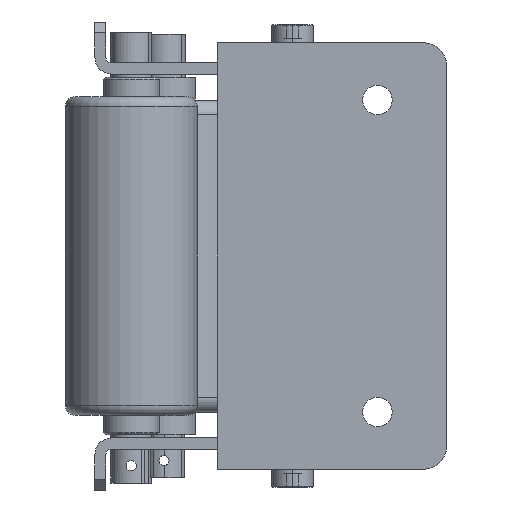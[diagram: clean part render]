
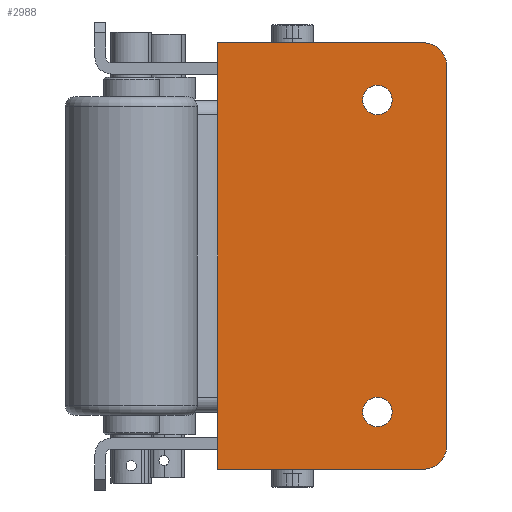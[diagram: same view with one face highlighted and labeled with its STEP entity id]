
A CAD part, left-side view. The second image highlights one B-rep face of the part: STEP entity #2988.
In plain terms, the highlighted planar face has unit normal (-1, 0, 0).
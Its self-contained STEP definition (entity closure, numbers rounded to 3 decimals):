
#200 = EDGE_CURVE ( 'NONE', #3284, #6445, #8306, .T. ) ;
#236 = EDGE_CURVE ( 'NONE', #10852, #4507, #460, .T. ) ;
#438 = VERTEX_POINT ( 'NONE', #5450 ) ;
#441 = VERTEX_POINT ( 'NONE', #6330 ) ;
#460 = CIRCLE ( 'NONE', #2542, 4.25 ) ;
#482 = CARTESIAN_POINT ( 'NONE',  ( -6., -13., -40.75 ) ) ;
#764 = VECTOR ( 'NONE', #10440, 1000. ) ;
#900 = EDGE_CURVE ( 'NONE', #6445, #438, #3285, .T. ) ;
#942 = EDGE_CURVE ( 'NONE', #438, #7979, #5584, .T. ) ;
#963 = DIRECTION ( 'NONE',  ( 0., 0., -1. ) ) ;
#1333 = CARTESIAN_POINT ( 'NONE',  ( -6., -33., 61.5 ) ) ;
#1495 = CARTESIAN_POINT ( 'NONE',  ( -6., 33., 61.5 ) ) ;
#1719 = DIRECTION ( 'NONE',  ( 0., 1., 0. ) ) ;
#1881 = CIRCLE ( 'NONE', #6604, 6.8 ) ;
#1952 = CARTESIAN_POINT ( 'NONE',  ( -6., 33., 61.5 ) ) ;
#2052 = AXIS2_PLACEMENT_3D ( 'NONE', #12760, #6842, #963 ) ;
#2064 = DIRECTION ( 'NONE',  ( 1., 0., 0. ) ) ;
#2257 = DIRECTION ( 'NONE',  ( 1., 0., 0. ) ) ;
#2536 = CARTESIAN_POINT ( 'NONE',  ( -6., -26.2, -61.5 ) ) ;
#2542 = AXIS2_PLACEMENT_3D ( 'NONE', #5942, #10406, #7462 ) ;
#2706 = AXIS2_PLACEMENT_3D ( 'NONE', #8137, #2257, #9155 ) ;
#2820 = DIRECTION ( 'NONE',  ( 0., 0., -1. ) ) ;
#2849 = ORIENTED_EDGE ( 'NONE', *, *, #900, .F. ) ;
#2988 = ADVANCED_FACE ( 'NONE', ( #7052, #9693, #12007 ), #12655, .T. ) ;
#3013 = CARTESIAN_POINT ( 'NONE',  ( -6., -13., 45. ) ) ;
#3186 = ORIENTED_EDGE ( 'NONE', *, *, #10040, .T. ) ;
#3284 = VERTEX_POINT ( 'NONE', #11743 ) ;
#3285 = CIRCLE ( 'NONE', #2706, 6.8 ) ;
#3356 = VECTOR ( 'NONE', #10831, 1000. ) ;
#3369 = EDGE_LOOP ( 'NONE', ( #3186, #6304 ) ) ;
#3402 = VECTOR ( 'NONE', #1719, 1000. ) ;
#4024 = DIRECTION ( 'NONE',  ( 0., 0., -1. ) ) ;
#4035 = LINE ( 'NONE', #8598, #3402 ) ;
#4254 = AXIS2_PLACEMENT_3D ( 'NONE', #3013, #9940, #4024 ) ;
#4507 = VERTEX_POINT ( 'NONE', #7634 ) ;
#4865 = VERTEX_POINT ( 'NONE', #8770 ) ;
#5337 = CIRCLE ( 'NONE', #2052, 4.25 ) ;
#5450 = CARTESIAN_POINT ( 'NONE',  ( -6., -33., 54.7 ) ) ;
#5510 = EDGE_LOOP ( 'NONE', ( #9143, #11876, #6361, #8239, #8037, #2849 ) ) ;
#5550 = EDGE_LOOP ( 'NONE', ( #8736, #10958 ) ) ;
#5551 = EDGE_CURVE ( 'NONE', #441, #4865, #10357, .T. ) ;
#5584 = LINE ( 'NONE', #1333, #10232 ) ;
#5647 = LINE ( 'NONE', #1952, #3356 ) ;
#5730 = CARTESIAN_POINT ( 'NONE',  ( -6., 0., 0. ) ) ;
#5850 = CARTESIAN_POINT ( 'NONE',  ( -6., -13., 45. ) ) ;
#5890 = EDGE_CURVE ( 'NONE', #6815, #10629, #4035, .T. ) ;
#5942 = CARTESIAN_POINT ( 'NONE',  ( -6., -13., -45. ) ) ;
#6057 = CARTESIAN_POINT ( 'NONE',  ( -6., 33., -61.5 ) ) ;
#6304 = ORIENTED_EDGE ( 'NONE', *, *, #5551, .T. ) ;
#6330 = CARTESIAN_POINT ( 'NONE',  ( -6., -13., 49.25 ) ) ;
#6361 = ORIENTED_EDGE ( 'NONE', *, *, #5890, .F. ) ;
#6445 = VERTEX_POINT ( 'NONE', #11440 ) ;
#6604 = AXIS2_PLACEMENT_3D ( 'NONE', #7944, #2064, #8949 ) ;
#6815 = VERTEX_POINT ( 'NONE', #2536 ) ;
#6842 = DIRECTION ( 'NONE',  ( 1., 0., 0. ) ) ;
#6851 = DIRECTION ( 'NONE',  ( 0., 0., -1. ) ) ;
#7052 = FACE_BOUND ( 'NONE', #3369, .T. ) ;
#7110 = CIRCLE ( 'NONE', #4254, 4.25 ) ;
#7194 = DIRECTION ( 'NONE',  ( 0., 0., -1. ) ) ;
#7436 = CARTESIAN_POINT ( 'NONE',  ( -6., -33., -54.7 ) ) ;
#7462 = DIRECTION ( 'NONE',  ( 0., 0., -1. ) ) ;
#7634 = CARTESIAN_POINT ( 'NONE',  ( -6., -13., -49.25 ) ) ;
#7944 = CARTESIAN_POINT ( 'NONE',  ( -6., -26.2, -54.7 ) ) ;
#7979 = VERTEX_POINT ( 'NONE', #7436 ) ;
#8037 = ORIENTED_EDGE ( 'NONE', *, *, #942, .F. ) ;
#8137 = CARTESIAN_POINT ( 'NONE',  ( -6., -26.2, 54.7 ) ) ;
#8178 = AXIS2_PLACEMENT_3D ( 'NONE', #5730, #8730, #2820 ) ;
#8230 = EDGE_CURVE ( 'NONE', #7979, #6815, #1881, .T. ) ;
#8239 = ORIENTED_EDGE ( 'NONE', *, *, #8230, .F. ) ;
#8306 = LINE ( 'NONE', #1495, #764 ) ;
#8598 = CARTESIAN_POINT ( 'NONE',  ( -6., 33., -61.5 ) ) ;
#8730 = DIRECTION ( 'NONE',  ( -1., 0., 0. ) ) ;
#8736 = ORIENTED_EDGE ( 'NONE', *, *, #12124, .T. ) ;
#8770 = CARTESIAN_POINT ( 'NONE',  ( -6., -13., 40.75 ) ) ;
#8949 = DIRECTION ( 'NONE',  ( 0., 0., -1. ) ) ;
#9143 = ORIENTED_EDGE ( 'NONE', *, *, #200, .F. ) ;
#9155 = DIRECTION ( 'NONE',  ( 0., 0., -1. ) ) ;
#9693 = FACE_BOUND ( 'NONE', #5550, .T. ) ;
#9940 = DIRECTION ( 'NONE',  ( 1., 0., 0. ) ) ;
#10040 = EDGE_CURVE ( 'NONE', #4865, #441, #7110, .T. ) ;
#10071 = AXIS2_PLACEMENT_3D ( 'NONE', #5850, #12422, #6851 ) ;
#10232 = VECTOR ( 'NONE', #7194, 1000. ) ;
#10357 = CIRCLE ( 'NONE', #10071, 4.25 ) ;
#10406 = DIRECTION ( 'NONE',  ( 1., 0., 0. ) ) ;
#10440 = DIRECTION ( 'NONE',  ( 0., -1., 0. ) ) ;
#10629 = VERTEX_POINT ( 'NONE', #6057 ) ;
#10831 = DIRECTION ( 'NONE',  ( 0., 0., 1. ) ) ;
#10852 = VERTEX_POINT ( 'NONE', #482 ) ;
#10958 = ORIENTED_EDGE ( 'NONE', *, *, #236, .T. ) ;
#11440 = CARTESIAN_POINT ( 'NONE',  ( -6., -26.2, 61.5 ) ) ;
#11613 = EDGE_CURVE ( 'NONE', #10629, #3284, #5647, .T. ) ;
#11743 = CARTESIAN_POINT ( 'NONE',  ( -6., 33., 61.5 ) ) ;
#11876 = ORIENTED_EDGE ( 'NONE', *, *, #11613, .F. ) ;
#12007 = FACE_OUTER_BOUND ( 'NONE', #5510, .T. ) ;
#12124 = EDGE_CURVE ( 'NONE', #4507, #10852, #5337, .T. ) ;
#12422 = DIRECTION ( 'NONE',  ( 1., 0., 0. ) ) ;
#12655 = PLANE ( 'NONE',  #8178 ) ;
#12760 = CARTESIAN_POINT ( 'NONE',  ( -6., -13., -45. ) ) ;
